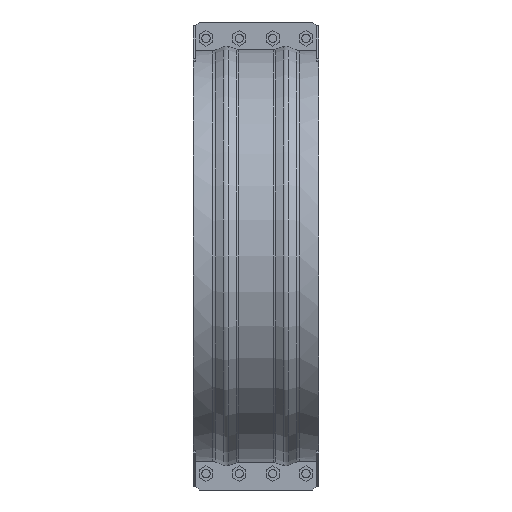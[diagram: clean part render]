
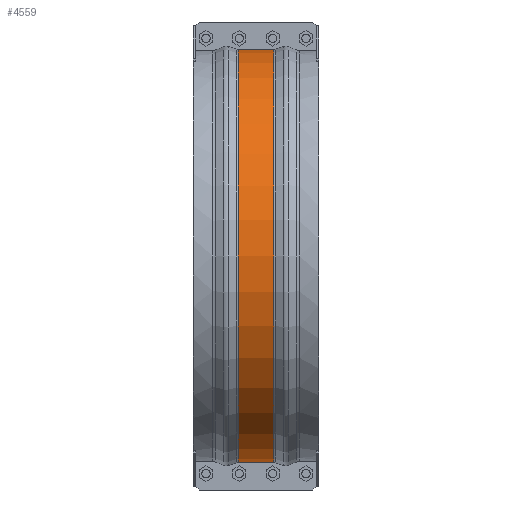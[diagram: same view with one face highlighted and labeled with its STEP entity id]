
A CAD part, front view. The second image highlights one B-rep face of the part: STEP entity #4559.
In plain terms, the highlighted cylindrical face has radius 628.952 mm (diameter 1257.9 mm), a partial arc.
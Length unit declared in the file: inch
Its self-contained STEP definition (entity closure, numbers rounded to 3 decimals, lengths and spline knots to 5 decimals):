
#414=FACE_OUTER_BOUND('',#671,.T.);
#671=EDGE_LOOP('',(#3465,#3466,#3467,#3468));
#1036=LINE('',#7017,#1485);
#1044=LINE('',#7149,#1493);
#1485=VECTOR('',#5630,0.3937);
#1493=VECTOR('',#5690,0.3937);
#1771=CIRCLE('',#4875,24.76189);
#1773=CIRCLE('',#4879,24.76189);
#2060=VERTEX_POINT('',#7009);
#2061=VERTEX_POINT('',#7016);
#2076=VERTEX_POINT('',#7134);
#2078=VERTEX_POINT('',#7147);
#2565=EDGE_CURVE('',#2061,#2060,#1036,.T.);
#2590=EDGE_CURVE('',#2076,#2061,#1771,.T.);
#2594=EDGE_CURVE('',#2078,#2060,#1773,.T.);
#2595=EDGE_CURVE('',#2078,#2076,#1044,.T.);
#3465=ORIENTED_EDGE('',*,*,#2565,.T.);
#3466=ORIENTED_EDGE('',*,*,#2594,.F.);
#3467=ORIENTED_EDGE('',*,*,#2595,.T.);
#3468=ORIENTED_EDGE('',*,*,#2590,.T.);
#4182=CYLINDRICAL_SURFACE('',#4878,24.76189);
#4559=ADVANCED_FACE('',(#414),#4182,.T.);
#4875=AXIS2_PLACEMENT_3D('',#7135,#5679,#5680);
#4878=AXIS2_PLACEMENT_3D('',#7146,#5686,#5687);
#4879=AXIS2_PLACEMENT_3D('',#7148,#5688,#5689);
#5630=DIRECTION('',(1.,0.,0.));
#5679=DIRECTION('center_axis',(1.,0.,0.));
#5680=DIRECTION('ref_axis',(0.,0.,-1.));
#5686=DIRECTION('center_axis',(1.,0.,0.));
#5687=DIRECTION('ref_axis',(0.,-1.,0.));
#5688=DIRECTION('center_axis',(1.,0.,0.));
#5689=DIRECTION('ref_axis',(0.,0.,-1.));
#5690=DIRECTION('',(-1.,0.,0.));
#7009=CARTESIAN_POINT('',(2.15101,-0.375,-24.75905));
#7016=CARTESIAN_POINT('',(-2.15101,-0.375,-24.75905));
#7017=CARTESIAN_POINT('',(0.,-0.375,-24.75905));
#7134=CARTESIAN_POINT('',(-2.15101,-0.375,24.75905));
#7135=CARTESIAN_POINT('Origin',(-2.15101,0.,0.));
#7146=CARTESIAN_POINT('Origin',(0.,0.,0.));
#7147=CARTESIAN_POINT('',(2.15101,-0.375,24.75905));
#7148=CARTESIAN_POINT('Origin',(2.15101,0.,0.));
#7149=CARTESIAN_POINT('',(0.,-0.375,24.75905));
